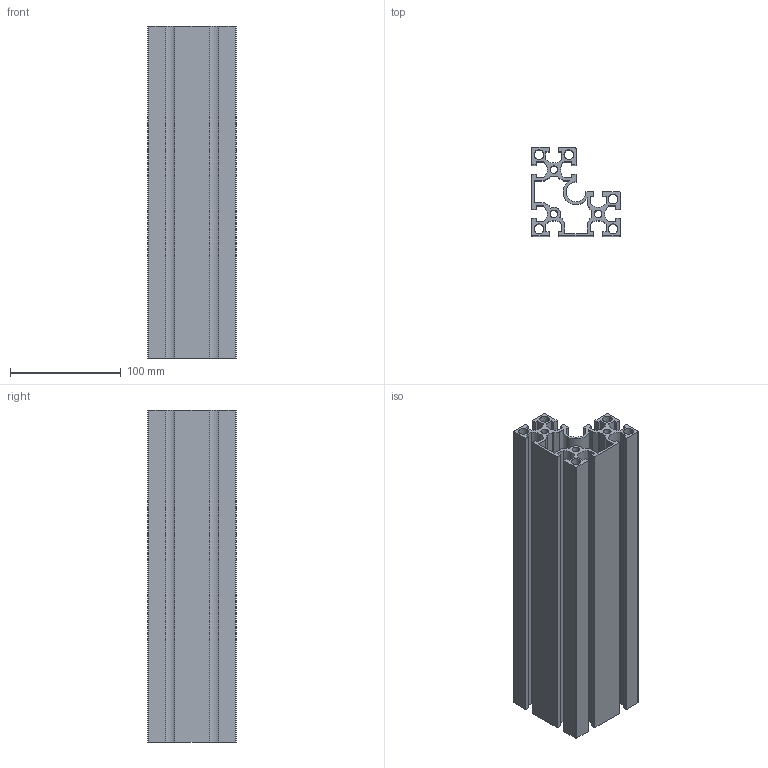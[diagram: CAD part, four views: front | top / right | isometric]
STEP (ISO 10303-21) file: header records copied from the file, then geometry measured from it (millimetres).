
FILE_DESCRIPTION (( 'STEP AP203' ), '1' );
FILE_NAME ('CG-8840-8.STEP', '2023-01-11T03:45:40', ( '微软用户' ), ( '微软中国' ), 'SwSTEP 2.0', 'SolidWorks 2017', '' );
FILE_SCHEMA (( 'CONFIG_CONTROL_DESIGN' ));
Length unit declared in the file: millimetre
Products named in the file (1): CG-8840-8
Bounding box: 80 x 80 x 300 mm (x, y, z)
Volume: 469189.6 mm3; surface area: 312168.7 mm2
Topology: 1 solids, 1 shells, 122 faces, 360 edges, 240 vertices
Faces by surface type: plane 86, cylinder 36
Entity records: 4169 total; most frequent: CARTESIAN_POINT 723, ORIENTED_EDGE 720, DIRECTION 678, EDGE_CURVE 360, VECTOR 288, LINE 288, VERTEX_POINT 240, AXIS2_PLACEMENT_3D 195
